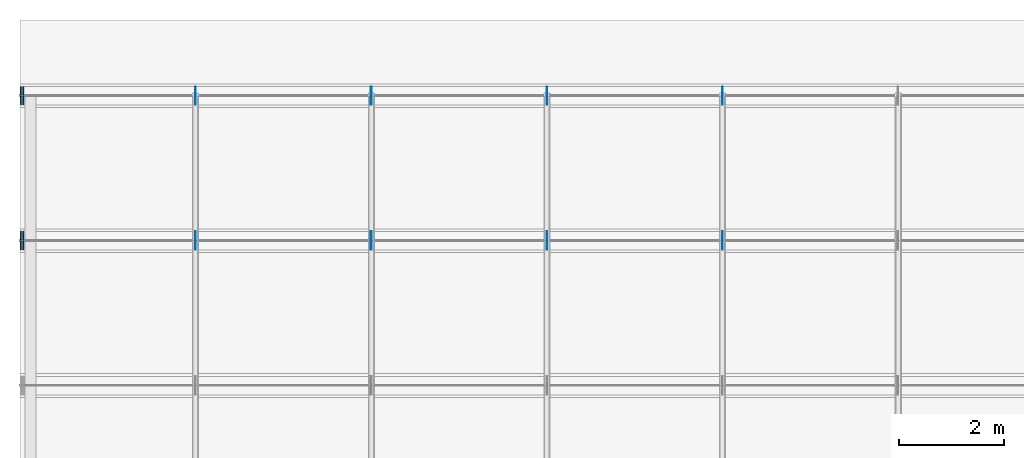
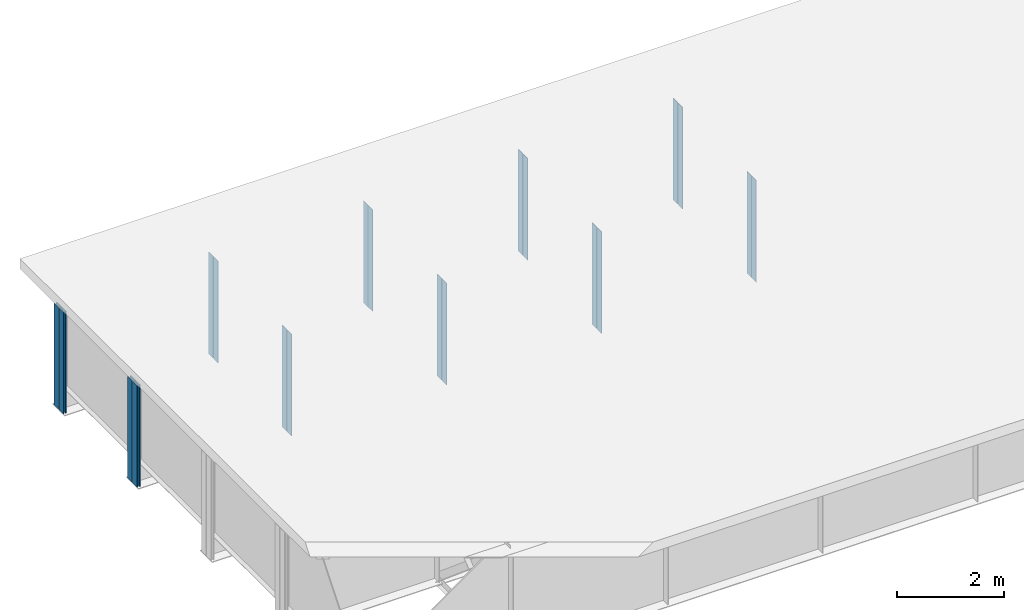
# One storey, part 4 of 19: 24 plates.
"""IFC4 building model written with IfcOpenShell, lengths in metres."""

from ifc_helpers import new_model, si_unit, frame, origin, origin_with_axes, origin_2d_with_axis, place, context, subcontext, project, spatial, rectangle, extrude, element, save


model = new_model("IFC4")

# Units and contexts
model_context = context("Model", 3, precision=1e-05, world=origin())
body_context = subcontext(model_context, "Body", "Model", "MODEL_VIEW")
ifc_project = project(units=[si_unit("LENGTHUNIT", "METRE"), si_unit("AREAUNIT", "SQUARE_METRE"), si_unit("VOLUMEUNIT", "CUBIC_METRE"), si_unit("PLANEANGLEUNIT", "RADIAN")], contexts=[model_context])

# Site, building, storey
site_placement = place(None, origin_with_axes())
site = spatial("IfcSite", under=ifc_project, at=site_placement, Name="Default Site")
building_placement = place(site_placement, origin_with_axes())
building = spatial("IfcBuilding", under=site, at=building_placement, Name="Bridge Structure")
storey_placement = place(building_placement, origin_with_axes())
storey = spatial("IfcBuildingStorey", under=building, at=storey_placement, Name="Superstructure")

# Plates
for number, where, z_axis, x_axis, name in (
    (1, (3.333, 2.8415, -1.157), (0.0, 0.0, 1.0), (1.0, 0.0, 0.0), "Intermediate Stiffener 4"),
    (2, (3.333, 2.6585, -1.157), (0.0, 0.0, 1.0), (1.0, 0.0, 0.0), "Intermediate Stiffener 4"),
    (3, (6.666, 2.8415, -1.157), (0.0, 0.0, 1.0), (1.0, 0.0, 0.0), "Intermediate Stiffener 4"),
    (4, (6.666, 2.6585, -1.157), (0.0, 0.0, 1.0), (1.0, 0.0, 0.0), "Intermediate Stiffener 4"),
    (5, (9.999, 2.8415, -1.157), (0.0, 0.0, 1.0), (1.0, 0.0, 0.0), "Intermediate Stiffener 4"),
    (6, (9.999, 2.6585, -1.157), (0.0, 0.0, 1.0), (1.0, 0.0, 0.0), "Intermediate Stiffener 4"),
    (7, (13.332, 2.8415, -1.157), (0.0, 0.0, 1.0), (1.0, 0.0, 0.0), "Intermediate Stiffener 4"),
    (8, (13.332, 2.6585, -1.157), (0.0, 0.0, 1.0), (1.0, 0.0, 0.0), "Intermediate Stiffener 4"),
):
    element("IfcPlate", number, at=place(storey_placement, frame(where, z_axis=z_axis, x_axis=x_axis)), inside=storey, Name=name, context=body_context, shape_type="SweptSolid", body=[
        extrude(rectangle(XDim=0.012, YDim=0.167, at=origin_2d_with_axis()), origin_with_axes(), (0.0, 0.0, 1.0), 2.314),
    ])
for number, where, z_axis, x_axis, name in (
    (9, (0.01, 2.8415, -1.157), (0.0, 0.0, 1.0), (1.0, 0.0, 0.0), "End Stiffener 4"),
    (10, (0.01, 2.6585, -1.157), (0.0, 0.0, 1.0), (1.0, 0.0, 0.0), "End Stiffener 4"),
    (11, (0.06, 2.8415, -1.157), (0.0, 0.0, 1.0), (1.0, 0.0, 0.0), "End Stiffener 4"),
    (12, (0.06, 2.6585, -1.157), (0.0, 0.0, 1.0), (1.0, 0.0, 0.0), "End Stiffener 4"),
):
    element("IfcPlate", number, at=place(storey_placement, frame(where, z_axis=z_axis, x_axis=x_axis)), inside=storey, Name=name, context=body_context, shape_type="SweptSolid", body=[
        extrude(rectangle(XDim=0.02, YDim=0.167, at=origin_2d_with_axis()), origin_with_axes(), (0.0, 0.0, 1.0), 2.314),
    ])
for number, where, z_axis, x_axis, name in (
    (13, (3.333, 5.5915, -1.157), (0.0, 0.0, 1.0), (1.0, 0.0, 0.0), "Intermediate Stiffener 5"),
    (14, (3.333, 5.4085, -1.157), (0.0, 0.0, 1.0), (1.0, 0.0, 0.0), "Intermediate Stiffener 5"),
    (15, (6.666, 5.5915, -1.157), (0.0, 0.0, 1.0), (1.0, 0.0, 0.0), "Intermediate Stiffener 5"),
    (16, (6.666, 5.4085, -1.157), (0.0, 0.0, 1.0), (1.0, 0.0, 0.0), "Intermediate Stiffener 5"),
    (17, (9.999, 5.5915, -1.157), (0.0, 0.0, 1.0), (1.0, 0.0, 0.0), "Intermediate Stiffener 5"),
    (18, (9.999, 5.4085, -1.157), (0.0, 0.0, 1.0), (1.0, 0.0, 0.0), "Intermediate Stiffener 5"),
    (19, (13.332, 5.5915, -1.157), (0.0, 0.0, 1.0), (1.0, 0.0, 0.0), "Intermediate Stiffener 5"),
    (20, (13.332, 5.4085, -1.157), (0.0, 0.0, 1.0), (1.0, 0.0, 0.0), "Intermediate Stiffener 5"),
):
    element("IfcPlate", number, at=place(storey_placement, frame(where, z_axis=z_axis, x_axis=x_axis)), inside=storey, Name=name, context=body_context, shape_type="SweptSolid", body=[
        extrude(rectangle(XDim=0.012, YDim=0.167, at=origin_2d_with_axis()), origin_with_axes(), (0.0, 0.0, 1.0), 2.314),
    ])
for number, where, z_axis, x_axis, name in (
    (21, (0.01, 5.5915, -1.157), (0.0, 0.0, 1.0), (1.0, 0.0, 0.0), "End Stiffener 5"),
    (22, (0.01, 5.4085, -1.157), (0.0, 0.0, 1.0), (1.0, 0.0, 0.0), "End Stiffener 5"),
    (23, (0.06, 5.5915, -1.157), (0.0, 0.0, 1.0), (1.0, 0.0, 0.0), "End Stiffener 5"),
    (24, (0.06, 5.4085, -1.157), (0.0, 0.0, 1.0), (1.0, 0.0, 0.0), "End Stiffener 5"),
):
    element("IfcPlate", number, at=place(storey_placement, frame(where, z_axis=z_axis, x_axis=x_axis)), inside=storey, Name=name, context=body_context, shape_type="SweptSolid", body=[
        extrude(rectangle(XDim=0.02, YDim=0.167, at=origin_2d_with_axis()), origin_with_axes(), (0.0, 0.0, 1.0), 2.314),
    ])

save(model, "model.ifc")
